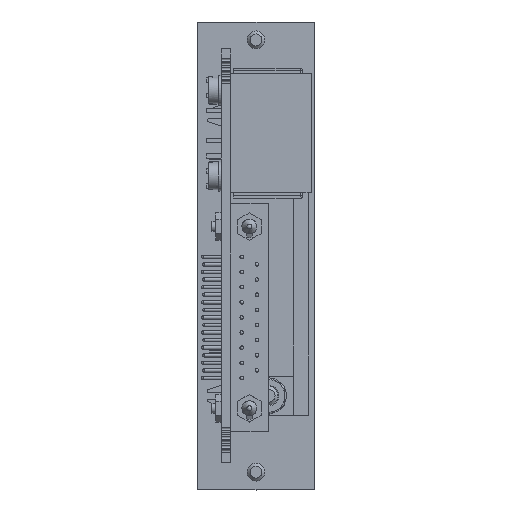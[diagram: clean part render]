
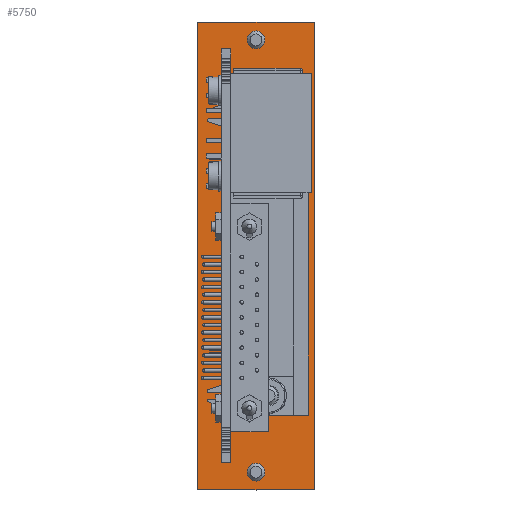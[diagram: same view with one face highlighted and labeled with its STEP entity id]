
A CAD part, front view. The second image highlights one B-rep face of the part: STEP entity #5750.
In plain terms, the highlighted planar face has unit normal (0, -1, 0).
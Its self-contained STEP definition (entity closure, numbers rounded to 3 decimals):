
#5750=ADVANCED_FACE('',(#17000,#17002,#17004,#17006),#17008,.F.);
#17000=FACE_BOUND('',#17001,.T.);
#17001=EDGE_LOOP('',(#26442,#26443,#26444,#26445));
#17002=FACE_BOUND('',#17003,.T.);
#17003=EDGE_LOOP('',(#26446,#26447,#26448,#26449));
#17004=FACE_BOUND('',#17005,.T.);
#17005=EDGE_LOOP('',(#26450));
#17006=FACE_BOUND('',#17007,.T.);
#17007=EDGE_LOOP('',(#26451));
#17008=PLANE('',#17009);
#17009=AXIS2_PLACEMENT_3D('',#17010,#17011,#17012);
#17010=CARTESIAN_POINT('',(0.,0.,0.));
#17011=DIRECTION('',(0.,1.,0.));
#17012=DIRECTION('',(-1.,0.,0.));
#26442=ORIENTED_EDGE('',*,*,#31111,.F.);
#26443=ORIENTED_EDGE('',*,*,#31119,.F.);
#26444=ORIENTED_EDGE('',*,*,#31116,.F.);
#26445=ORIENTED_EDGE('',*,*,#31114,.F.);
#26446=ORIENTED_EDGE('',*,*,#32314,.F.);
#26447=ORIENTED_EDGE('',*,*,#32315,.F.);
#26448=ORIENTED_EDGE('',*,*,#32316,.F.);
#26449=ORIENTED_EDGE('',*,*,#32317,.F.);
#26450=ORIENTED_EDGE('',*,*,#32318,.T.);
#26451=ORIENTED_EDGE('',*,*,#32319,.T.);
#31111=EDGE_CURVE('',#35356,#35357,#35358,.T.);
#31114=EDGE_CURVE('',#35357,#35361,#35362,.T.);
#31116=EDGE_CURVE('',#35361,#35364,#35365,.T.);
#31119=EDGE_CURVE('',#35364,#35356,#35369,.T.);
#32314=EDGE_CURVE('',#37168,#37169,#37170,.F.);
#32315=EDGE_CURVE('',#37171,#37168,#37172,.F.);
#32316=EDGE_CURVE('',#37173,#37171,#37174,.F.);
#32317=EDGE_CURVE('',#37169,#37173,#37175,.F.);
#32318=EDGE_CURVE('',#37176,#37176,#37177,.F.);
#32319=EDGE_CURVE('',#37178,#37178,#37179,.F.);
#35356=VERTEX_POINT('',#43293);
#35357=VERTEX_POINT('',#43294);
#35358=LINE('',#43295,#43296);
#35361=VERTEX_POINT('',#43304);
#35362=LINE('',#43305,#43306);
#35364=VERTEX_POINT('',#43311);
#35365=LINE('',#43312,#43313);
#35369=LINE('',#43323,#43324);
#37168=VERTEX_POINT('',#47931);
#37169=VERTEX_POINT('',#47932);
#37170=LINE('',#47933,#47934);
#37171=VERTEX_POINT('',#47936);
#37172=LINE('',#47937,#47938);
#37173=VERTEX_POINT('',#47940);
#37174=LINE('',#47941,#47942);
#37175=LINE('',#47944,#47945);
#37176=VERTEX_POINT('',#47947);
#37177=CIRCLE('',#47948,1.229);
#37178=VERTEX_POINT('',#47952);
#37179=CIRCLE('',#47953,1.229);
#43293=CARTESIAN_POINT('',(0.,0.,0.));
#43294=CARTESIAN_POINT('',(-19.6,0.,0.));
#43295=CARTESIAN_POINT('',(0.,0.,0.));
#43296=VECTOR('',#43297,1.);
#43297=DIRECTION('',(-1.,0.,0.));
#43304=CARTESIAN_POINT('',(-19.6,0.,78.5));
#43305=CARTESIAN_POINT('',(-19.6,0.,0.));
#43306=VECTOR('',#43307,1.);
#43307=DIRECTION('',(0.,0.,1.));
#43311=CARTESIAN_POINT('',(0.,0.,78.5));
#43312=CARTESIAN_POINT('',(-19.6,0.,78.5));
#43313=VECTOR('',#43314,1.);
#43314=DIRECTION('',(1.,0.,0.));
#43323=CARTESIAN_POINT('',(0.,0.,78.5));
#43324=VECTOR('',#43325,1.);
#43325=DIRECTION('',(0.,0.,-1.));
#47931=CARTESIAN_POINT('',(-14.,0.,66.05));
#47932=CARTESIAN_POINT('',(-14.,0.,12.55));
#47933=CARTESIAN_POINT('',(-14.,0.,12.55));
#47934=VECTOR('',#47935,1.);
#47935=DIRECTION('',(0.,0.,1.));
#47936=CARTESIAN_POINT('',(-1.07,0.,66.05));
#47937=CARTESIAN_POINT('',(-14.,0.,66.05));
#47938=VECTOR('',#47939,1.);
#47939=DIRECTION('',(1.,0.,0.));
#47940=CARTESIAN_POINT('',(-1.07,0.,12.55));
#47941=CARTESIAN_POINT('',(-1.07,0.,66.05));
#47942=VECTOR('',#47943,1.);
#47943=DIRECTION('',(0.,0.,-1.));
#47944=CARTESIAN_POINT('',(-1.07,0.,12.55));
#47945=VECTOR('',#47946,1.);
#47946=DIRECTION('',(-1.,0.,0.));
#47947=CARTESIAN_POINT('',(-8.571,0.,3.));
#47948=AXIS2_PLACEMENT_3D('',#47949,#47950,#47951);
#47949=CARTESIAN_POINT('',(-9.8,0.,3.));
#47950=DIRECTION('',(0.,-1.,0.));
#47951=DIRECTION('',(1.,0.,0.));
#47952=CARTESIAN_POINT('',(-8.571,0.,75.5));
#47953=AXIS2_PLACEMENT_3D('',#47954,#47955,#47956);
#47954=CARTESIAN_POINT('',(-9.8,0.,75.5));
#47955=DIRECTION('',(0.,-1.,0.));
#47956=DIRECTION('',(1.,0.,0.));
